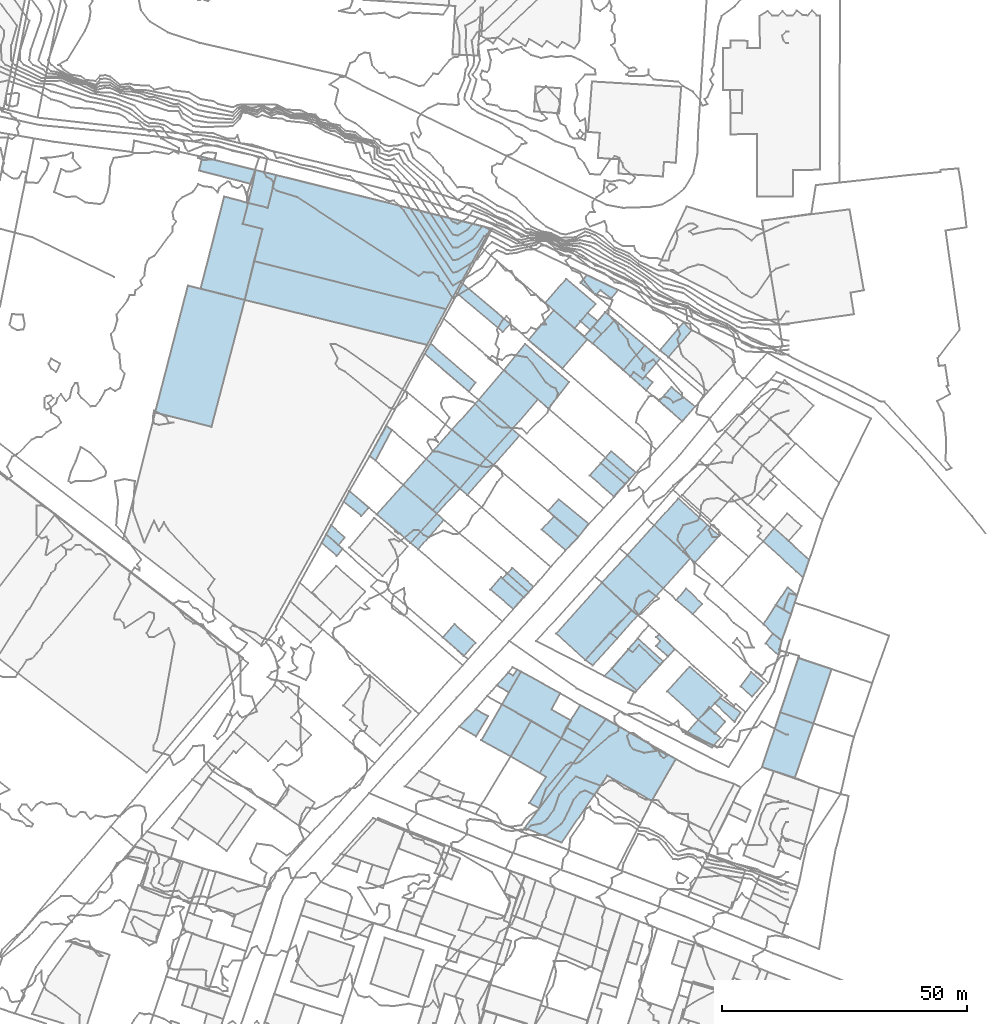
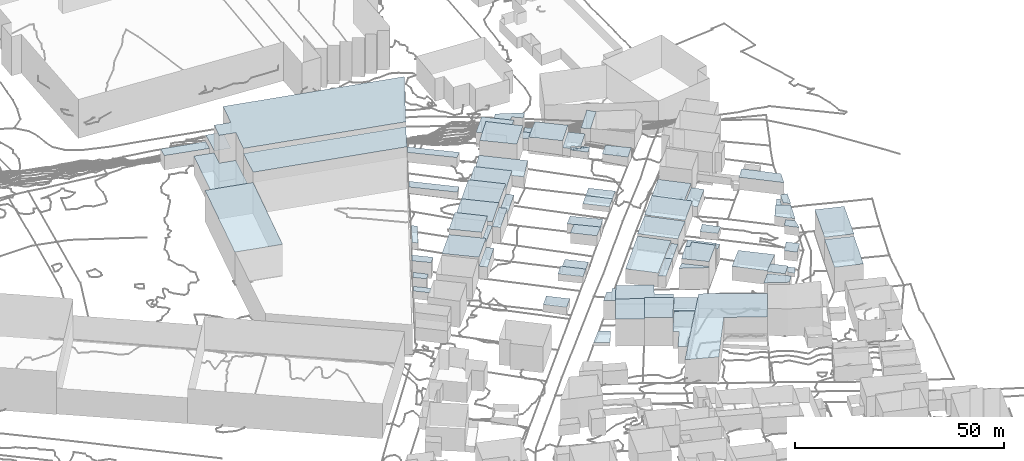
# Not in any storey, part 84 of 419: 73 roofs.
"""IFC2X3 model written with IfcOpenShell, lengths in metres."""

from ifc_helpers import new_model, si_unit, frame, origin_with_axes, place, context, subcontext, project, faceted_brep, element, save


model = new_model("IFC2X3")

# Units and contexts
model_context = context("Model", 3, precision=1e-05, world=origin_with_axes())
body_context = subcontext(model_context, "Body", "Model", "MODEL_VIEW")
ifc_project = project(units=[si_unit("AREAUNIT", "SQUARE_METRE"), si_unit("LENGTHUNIT", "METRE")], contexts=[model_context])

# Roofs
roof_1_placement = place(None, frame((971.4920204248, 255.6976909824, 80.3019999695), z_axis=(0.0, 0.0, 1.0), x_axis=(1.0, 0.0, 0.0)))
element("IfcRoof", 1, at=roof_1_placement, Name="Toiture 0", ShapeType="NOTDEFINED", context=body_context, shape_type="Brep", body=[
    faceted_brep([(0.0, 0.0, 2.6980000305), (1.9, -1.8999999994, 2.6980000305), (3.7, -3.3999999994, 2.6980000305), (5.6, 2.0, 2.6980000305), (2.5, 3.9000000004, 2.6980000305)], [[[0, 1, 2]], [[2, 3, 4]], [[4, 0, 2]]]),
])
roof_2_placement = place(None, frame((943.8920204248, 250.5976909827, 79.4043981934), z_axis=(0.0, 0.0, 1.0), x_axis=(1.0, 0.0, 0.0)))
element("IfcRoof", 2, at=roof_2_placement, Name="Toiture 0", ShapeType="NOTDEFINED", context=body_context, shape_type="Brep", body=[
    faceted_brep([(1.8999999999, 2.2000000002, 7.3956018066), (0.0, 0.0, 7.3956018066), (0.8999999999, -0.6000000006, 7.3956018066), (2.2, 0.7999999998, 7.3956018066), (6.5, -3.2000000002, 7.3956018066), (7.1, -2.5, 7.3956018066)], [[[0, 1, 2]], [[3, 4, 5]], [[0, 2, 3]], [[3, 5, 0]]]),
])
roof_3_placement = place(None, frame((950.2920204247, 311.5976909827, 77.1379985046), z_axis=(0.0, 0.0, 1.0), x_axis=(1.0, 0.0, 0.0)))
element("IfcRoof", 3, at=roof_3_placement, Name="Toiture 0", ShapeType="NOTDEFINED", context=body_context, shape_type="Brep", body=[
    faceted_brep([(6.5, 4.0999999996, 5.0620014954), (4.9, 5.7999999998, 5.0620014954), (0.0, 0.0, 5.0620014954), (1.8, -1.4000000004, 5.0620014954)], [[[0, 1, 2]], [[2, 3, 0]]]),
])
roof_4_placement = place(None, frame((909.3920204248, 234.7976909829, 79.4479989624), z_axis=(0.0, 0.0, 1.0), x_axis=(1.0, 0.0, 0.0)))
element("IfcRoof", 4, at=roof_4_placement, Name="Toiture 0", ShapeType="NOTDEFINED", context=body_context, shape_type="Brep", body=[
    faceted_brep([(5.8999999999, 2.0999999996, 1.0520010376), (3.2999999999, 3.5, 1.0520010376), (0.0, 0.0, 1.0520010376), (3.3999999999, -2.0, 1.0520010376)], [[[0, 1, 2]], [[2, 3, 0]]]),
])
roof_5_placement = place(None, frame((922.6920204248, 214.0976909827, 76.1770995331), z_axis=(0.0, 0.0, 1.0), x_axis=(1.0, 0.0, 0.0)))
element("IfcRoof", 5, at=roof_5_placement, Name="Toiture 0", ShapeType="NOTDEFINED", context=body_context, shape_type="Brep", body=[
    faceted_brep([(26.0, 5.5, 7.1229004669), (30.9, 14.0999999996, 7.1229004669), (16.6, 22.2000000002, 7.1229004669), (0.0, 0.0, 7.1229004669), (7.6, -3.0, 7.1229004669), (16.9, 10.7000000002, 7.1229004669)], [[[0, 1, 2]], [[2, 3, 4]], [[5, 0, 2]], [[2, 4, 5]]]),
])
roof_6_placement = place(None, frame((971.1920204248, 226.4976909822, 78.6313998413), z_axis=(0.0, 0.0, 1.0), x_axis=(1.0, 0.0, 0.0)))
element("IfcRoof", 6, at=roof_6_placement, Name="Toiture 0", ShapeType="NOTDEFINED", context=body_context, shape_type="Brep", body=[
    faceted_brep([(3.7000000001, 11.2000000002, 7.1686001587), (0.0, 0.0, 7.1686001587), (6.7000000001, -2.1999999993, 7.1686001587), (10.5, 8.9000000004, 7.1686001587)], [[[0, 1, 2]], [[2, 3, 0]]]),
])
roof_7_placement = place(None, frame((974.8920204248, 237.6976909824, 79.1500015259), z_axis=(0.0, 0.0, 1.0), x_axis=(1.0, 0.0, 0.0)))
element("IfcRoof", 7, at=roof_7_placement, Name="Toiture 0", ShapeType="NOTDEFINED", context=body_context, shape_type="Brep", body=[
    faceted_brep([(3.7, 11.1000000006, 7.3499984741), (0.0, 0.0, 7.3499984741), (6.7999999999, -2.2999999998, 7.3499984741), (10.5, 8.7999999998, 7.3499984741)], [[[0, 1, 2]], [[2, 3, 0]]]),
])
roof_8_placement = place(None, frame((973.9920204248, 259.5976909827, 80.5100021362), z_axis=(0.0, 0.0, 1.0), x_axis=(1.0, 0.0, 0.0)))
element("IfcRoof", 8, at=roof_8_placement, Name="Toiture 0", ShapeType="NOTDEFINED", context=body_context, shape_type="Brep", body=[
    faceted_brep([(2.4, 3.5999999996, 1.1899978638), (0.0, 0.0, 1.1899978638), (1.6, -0.9000000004, 1.1899978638), (2.7, 2.3999999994, 1.1899978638), (4.4, 2.0, 1.1899978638)], [[[0, 1, 2]], [[3, 4, 0]], [[0, 2, 3]]]),
])
roof_9_placement = place(None, frame((971.3920204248, 272.5976909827, 80.4740020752), z_axis=(0.0, 0.0, 1.0), x_axis=(1.0, 0.0, 0.0)))
element("IfcRoof", 9, at=roof_9_placement, Name="Toiture 0", ShapeType="NOTDEFINED", context=body_context, shape_type="Brep", body=[
    faceted_brep([(2.2999999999, 2.7000000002, 3.6259979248), (0.0, 0.0, 3.6259979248), (6.7999999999, -6.1000000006, 3.6259979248), (8.2, -7.4000000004, 3.6259979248), (9.3999999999, -3.7999999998, 3.6259979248), (5.2, 0.0999999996, 3.6259979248)], [[[0, 1, 2]], [[2, 3, 4]], [[4, 5, 0]], [[0, 2, 4]]]),
])
roof_10_placement = place(None, frame((975.5920204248, 258.6976909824, 80.5100021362), z_axis=(0.0, 0.0, 1.0), x_axis=(1.0, 0.0, 0.0)))
element("IfcRoof", 10, at=roof_10_placement, Name="Toiture 0", ShapeType="NOTDEFINED", context=body_context, shape_type="Brep", body=[
    faceted_brep([(1.1, 3.2999999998, 2.9899978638), (0.0, 0.0, 2.9899978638), (1.5, -1.0, 2.9899978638), (2.8, 2.9000000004, 2.9899978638)], [[[0, 1, 2]], [[2, 3, 0]]]),
])
roof_11_placement = place(None, frame((865.1920204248, 337.3976909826, 75.976000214), z_axis=(0.0, 0.0, 1.0), x_axis=(1.0, 0.0, 0.0)))
element("IfcRoof", 11, at=roof_11_placement, Name="Toiture 0", ShapeType="NOTDEFINED", context=body_context, shape_type="Brep", body=[
    faceted_brep([(5.1, 3.2999999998, 18.223999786), (1.1, 4.2999999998, 18.223999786), (0.0, 0.0, 18.223999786), (4.0, -1.0, 18.223999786), (2.3, -7.5999999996, 18.223999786), (41.5, -17.4000000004, 18.223999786), (50.6, -0.9000000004, 18.223999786), (6.8, 10.0, 18.223999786)], [[[0, 1, 2]], [[3, 4, 5]], [[5, 6, 7]], [[0, 2, 3]], [[5, 7, 0]], [[0, 3, 5]]]),
])
roof_12_placement = place(None, frame((923.4920204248, 313.6976909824, 79.7437991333), z_axis=(0.0, 0.0, 1.0), x_axis=(1.0, 0.0, 0.0)))
element("IfcRoof", 12, at=roof_12_placement, Name="Toiture 0", ShapeType="NOTDEFINED", context=body_context, shape_type="Brep", body=[
    faceted_brep([(12.0, 0.1000000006, 6.9562008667), (5.2, 6.1000000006, 6.9562008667), (0.0, 0.0, 6.9562008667), (6.9, -5.7999999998, 6.9562008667)], [[[0, 1, 2]], [[2, 3, 0]]]),
])
roof_13_placement = place(None, frame((944.2920204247, 306.2976909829, 79.112399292), z_axis=(0.0, 0.0, 1.0), x_axis=(1.0, 0.0, 0.0)))
element("IfcRoof", 13, at=roof_13_placement, Name="Toiture 0", ShapeType="NOTDEFINED", context=body_context, shape_type="Brep", body=[
    faceted_brep([(4.6000000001, -1.2000000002, 1.987600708), (3.0, 0.0, 1.987600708), (2.5, -0.5, 1.987600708), (0.7000000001, 0.8999999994, 1.987600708), (0.0, 0.0, 1.987600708), (3.2000000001, -2.9000000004, 1.987600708)], [[[0, 1, 2]], [[2, 3, 4]], [[4, 5, 0]], [[0, 2, 4]]]),
])
roof_14_placement = place(None, frame((915.6920204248, 262.7976909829, 79.3039978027), z_axis=(0.0, 0.0, 1.0), x_axis=(1.0, 0.0, 0.0)))
element("IfcRoof", 14, at=roof_14_placement, Name="Toiture 0", ShapeType="NOTDEFINED", context=body_context, shape_type="Brep", body=[
    faceted_brep([(4.7000000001, -4.0, 1.9960021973), (6.8, -1.6000000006, 1.9960021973), (2.2000000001, 2.5, 1.9960021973), (0.0, 0.0, 1.9960021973)], [[[0, 1, 2]], [[2, 3, 0]]]),
])
roof_15_placement = place(None, frame((935.9920204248, 286.0976909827, 79.0081993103), z_axis=(0.0, 0.0, 1.0), x_axis=(1.0, 0.0, 0.0)))
element("IfcRoof", 15, at=roof_15_placement, Name="Toiture 0", ShapeType="NOTDEFINED", context=body_context, shape_type="Brep", body=[
    faceted_brep([(4.9, -4.2999999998, 1.5918006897), (7.2, -1.7999999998, 1.5918006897), (2.2999999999, 2.5, 1.5918006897), (0.0, 0.0, 1.5918006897)], [[[0, 1, 2]], [[2, 3, 0]]]),
])
roof_16_placement = place(None, frame((938.9920204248, 245.0976909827, 79.3228012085), z_axis=(0.0, 0.0, 1.0), x_axis=(1.0, 0.0, 0.0)))
element("IfcRoof", 16, at=roof_16_placement, Name="Toiture 0", ShapeType="NOTDEFINED", context=body_context, shape_type="Brep", body=[
    faceted_brep([(1.5, 1.5, 6.1771987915), (0.0, 0.0, 6.1771987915), (6.2999999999, -3.2999999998, 6.1771987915), (6.6, -2.9000000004, 6.1771987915)], [[[0, 1, 2]], [[2, 3, 0]]]),
])
roof_17_placement = place(None, frame((934.0920204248, 317.5976909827, 79.4200027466), z_axis=(0.0, 0.0, 1.0), x_axis=(1.0, 0.0, 0.0)))
element("IfcRoof", 17, at=roof_17_placement, Name="Toiture 0", ShapeType="NOTDEFINED", context=body_context, shape_type="Brep", body=[
    faceted_brep([(3.5, 0.0, 3.3799972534), (1.5, 1.5999999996, 3.3799972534), (0.0, 0.0, 3.3799972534), (2.0, -1.7999999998, 3.3799972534)], [[[0, 1, 2]], [[2, 3, 0]]]),
])
roof_18_placement = place(None, frame((913.8920204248, 231.9976909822, 79.4660003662), z_axis=(0.0, 0.0, 1.0), x_axis=(1.0, 0.0, 0.0)))
element("IfcRoof", 18, at=roof_18_placement, Name="Toiture 0", ShapeType="NOTDEFINED", context=body_context, shape_type="Brep", body=[
    faceted_brep([(0.0, 0.0, 7.9339996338), (6.0, -3.2999999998, 7.9339996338), (10.2, 4.0, 7.9339996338), (4.2, 7.3000000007, 7.9339996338)], [[[0, 1, 2]], [[2, 3, 0]]]),
])
roof_19_placement = place(None, frame((949.1920204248, 275.8976909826, 79.6199989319), z_axis=(0.0, 0.0, 1.0), x_axis=(1.0, 0.0, 0.0)))
element("IfcRoof", 19, at=roof_19_placement, Name="Toiture 0", ShapeType="NOTDEFINED", context=body_context, shape_type="Brep", body=[
    faceted_brep([(4.9, 5.5, 4.5800010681), (0.0, 0.0, 4.5800010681), (5.9, -5.4000000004, 4.5800010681), (10.9, 0.0, 4.5800010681)], [[[0, 1, 2]], [[2, 3, 0]]]),
])
roof_20_placement = place(None, frame((907.8920204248, 295.3976909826, 79.9370018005), z_axis=(0.0, 0.0, 1.0), x_axis=(1.0, 0.0, 0.0)))
element("IfcRoof", 20, at=roof_20_placement, Name="Toiture 0", ShapeType="NOTDEFINED", context=body_context, shape_type="Brep", body=[
    faceted_brep([(12.2999999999, 0.0999999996, 6.2629981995), (5.3999999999, 6.0999999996, 6.2629981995), (0.0, 0.0, 6.2629981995), (6.8999999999, -5.9000000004, 6.2629981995)], [[[0, 1, 2]], [[2, 3, 0]]]),
])
roof_21_placement = place(None, frame((865.5920204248, 321.8976909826, 80.3578001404), z_axis=(0.0, 0.0, 1.0), x_axis=(1.0, 0.0, 0.0)))
element("IfcRoof", 21, at=roof_21_placement, Name="Toiture 0", ShapeType="NOTDEFINED", context=body_context, shape_type="Brep", body=[
    faceted_brep([(41.1, -1.9000000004, 12.3421998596), (1.9, 7.9000000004, 12.3421998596), (0.0, 0.0, 12.3421998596), (37.2, -9.2000000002, 12.3421998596)], [[[0, 1, 2]], [[2, 3, 0]]]),
])
roof_22_placement = place(None, frame((955.5920204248, 233.2976909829, 78.8300018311), z_axis=(0.0, 0.0, 1.0), x_axis=(1.0, 0.0, 0.0)))
element("IfcRoof", 22, at=roof_22_placement, Name="Toiture 0", ShapeType="NOTDEFINED", context=body_context, shape_type="Brep", body=[
    faceted_brep([(2.6, 2.8999999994, 3.7699981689), (0.0, 0.0, 3.7699981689), (5.4, -2.8000000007, 3.7699981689), (7.1, -0.8000000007, 3.7699981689)], [[[0, 1, 2]], [[2, 3, 0]]]),
])
roof_23_placement = place(None, frame((943.6920204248, 269.7976909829, 79.72599823), z_axis=(0.0, 0.0, 1.0), x_axis=(1.0, 0.0, 0.0)))
element("IfcRoof", 23, at=roof_23_placement, Name="Toiture 0", ShapeType="NOTDEFINED", context=body_context, shape_type="Brep", body=[
    faceted_brep([(5.5, 6.0999999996, 4.77400177), (0.0, 0.0, 4.77400177), (7.3, -6.8000000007, 4.77400177), (12.8, -0.7000000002, 4.77400177)], [[[0, 1, 2]], [[2, 3, 0]]]),
])
roof_24_placement = place(None, frame((892.4920204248, 278.0976909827, 79.9392015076), z_axis=(0.0, 0.0, 1.0), x_axis=(1.0, 0.0, 0.0)))
element("IfcRoof", 24, at=roof_24_placement, Name="Toiture 0", ShapeType="NOTDEFINED", context=body_context, shape_type="Brep", body=[
    faceted_brep([(12.2999999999, 0.2000000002, 6.1607984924), (5.4, 6.0, 6.1607984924), (0.0, 0.0, 6.1607984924), (6.9, -5.7999999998, 6.1607984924)], [[[0, 1, 2]], [[2, 3, 0]]]),
])
roof_25_placement = place(None, frame((926.8920204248, 321.2976909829, 79.1452018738), z_axis=(0.0, 0.0, 1.0), x_axis=(1.0, 0.0, 0.0)))
element("IfcRoof", 25, at=roof_25_placement, Name="Toiture 0", ShapeType="NOTDEFINED", context=body_context, shape_type="Brep", body=[
    faceted_brep([(4.2999999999, 4.8999999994, 4.1547981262), (0.0, 0.0, 4.1547981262), (6.0, -5.2000000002, 4.1547981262), (10.2999999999, -0.2000000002, 4.1547981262)], [[[0, 1, 2]], [[2, 3, 0]]]),
])
roof_26_placement = place(None, frame((936.6920204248, 316.3976909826, 78.9909980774), z_axis=(0.0, 0.0, 1.0), x_axis=(1.0, 0.0, 0.0)))
element("IfcRoof", 26, at=roof_26_placement, Name="Toiture 0", ShapeType="NOTDEFINED", context=body_context, shape_type="Brep", body=[
    faceted_brep([(4.4, 1.4000000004, 2.5090019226), (2.5, 3.0, 2.5090019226), (0.0, 0.0, 2.5090019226), (1.7000000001, -1.5, 2.5090019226)], [[[0, 1, 2]], [[2, 3, 0]]]),
])
roof_27_placement = place(None, frame((926.1920204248, 274.9976909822, 79.1666029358), z_axis=(0.0, 0.0, 1.0), x_axis=(1.0, 0.0, 0.0)))
element("IfcRoof", 27, at=roof_27_placement, Name="Toiture 0", ShapeType="NOTDEFINED", context=body_context, shape_type="Brep", body=[
    faceted_brep([(4.9, -4.1999999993, 3.0333970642), (7.5, -1.5, 3.0333970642), (2.5, 2.7000000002, 3.0333970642), (0.0, 0.0, 3.0333970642)], [[[0, 1, 2]], [[2, 3, 0]]]),
])
roof_28_placement = place(None, frame((961.4920204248, 239.5976909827, 79.2879989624), z_axis=(0.0, 0.0, 1.0), x_axis=(1.0, 0.0, 0.0)))
element("IfcRoof", 28, at=roof_28_placement, Name="Toiture 0", ShapeType="NOTDEFINED", context=body_context, shape_type="Brep", body=[
    faceted_brep([(5.2999999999, -1.9000000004, 1.2120010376), (1.1, 1.0999999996, 1.2120010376), (0.0, 0.0, 1.2120010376), (4.1, -3.9000000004, 1.2120010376)], [[[0, 1, 2]], [[2, 3, 0]]]),
])
roof_29_placement = place(None, frame((935.0920204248, 248.3976909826, 79.2480003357), z_axis=(0.0, 0.0, 1.0), x_axis=(1.0, 0.0, 0.0)))
element("IfcRoof", 29, at=roof_29_placement, Name="Toiture 0", ShapeType="NOTDEFINED", context=body_context, shape_type="Brep", body=[
    faceted_brep([(5.0, 5.5999999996, 3.4519996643), (0.0, 0.0, 3.4519996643), (1.5, -1.0999999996, 3.4519996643), (6.5, 4.4000000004, 3.4519996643)], [[[0, 1, 2]], [[2, 3, 0]]]),
])
roof_30_placement = place(None, frame((966.7920204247, 242.9976909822, 79.511000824), z_axis=(0.0, 0.0, 1.0), x_axis=(1.0, 0.0, 0.0)))
element("IfcRoof", 30, at=roof_30_placement, Name="Toiture 0", ShapeType="NOTDEFINED", context=body_context, shape_type="Brep", body=[
    faceted_brep([(0.0, 0.0, 2.688999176), (2.4, -2.0999999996, 2.688999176), (4.7000000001, 0.7000000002, 2.688999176), (2.2000000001, 2.9000000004, 2.688999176)], [[[0, 1, 2]], [[2, 3, 0]]]),
])
roof_31_placement = place(None, frame((951.7920204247, 241.9976909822, 79.3996029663), z_axis=(0.0, 0.0, 1.0), x_axis=(1.0, 0.0, 0.0)))
element("IfcRoof", 31, at=roof_31_placement, Name="Toiture 0", ShapeType="NOTDEFINED", context=body_context, shape_type="Brep", body=[
    faceted_brep([(11.3, -0.8999999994, 4.1003970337), (4.6000000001, 5.0, 4.1003970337), (0.0, 0.0, 4.1003970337), (6.4, -5.7999999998, 4.1003970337)], [[[0, 1, 2]], [[2, 3, 0]]]),
])
roof_32_placement = place(None, frame((938.2920204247, 288.5976909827, 78.9566001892), z_axis=(0.0, 0.0, 1.0), x_axis=(1.0, 0.0, 0.0)))
element("IfcRoof", 32, at=roof_32_placement, Name="Toiture 0", ShapeType="NOTDEFINED", context=body_context, shape_type="Brep", body=[
    faceted_brep([(4.9, -4.2999999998, 1.6433998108), (7.1000000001, -1.9000000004, 1.6433998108), (2.1000000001, 2.3999999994, 1.6433998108), (0.0, 0.0, 1.6433998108)], [[[0, 1, 2]], [[2, 3, 0]]]),
])
roof_33_placement = place(None, frame((930.1920204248, 232.3976909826, 79.1070014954), z_axis=(0.0, 0.0, 1.0), x_axis=(1.0, 0.0, 0.0)))
element("IfcRoof", 33, at=roof_33_placement, Name="Toiture 0", ShapeType="NOTDEFINED", context=body_context, shape_type="Brep", body=[
    faceted_brep([(4.5, -2.2999999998, 3.1929985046), (5.8, -0.5, 3.1929985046), (1.0, 2.2000000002, 3.1929985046), (0.0, 0.0, 3.1929985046)], [[[0, 1, 2]], [[2, 3, 0]]]),
])
roof_34_placement = place(None, frame((958.1920204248, 236.1976909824, 79.2257979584), z_axis=(0.0, 0.0, 1.0), x_axis=(1.0, 0.0, 0.0)))
element("IfcRoof", 34, at=roof_34_placement, Name="Toiture 0", ShapeType="NOTDEFINED", context=body_context, shape_type="Brep", body=[
    faceted_brep([(2.2000000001, 2.6000000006, 3.9742020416), (0.0, 0.0, 3.9742020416), (3.3, -2.8999999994, 3.9742020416), (5.5, -0.3999999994, 3.9742020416)], [[[0, 1, 2]], [[2, 3, 0]]]),
])
roof_35_placement = place(None, frame((949.5920204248, 251.1976909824, 79.6), z_axis=(0.0, 0.0, 1.0), x_axis=(1.0, 0.0, 0.0)))
element("IfcRoof", 35, at=roof_35_placement, Name="Toiture 0", ShapeType="NOTDEFINED", context=body_context, shape_type="Brep", body=[
    faceted_brep([(3.8, -0.5999999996, 4.6), (0.6, 2.4000000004, 4.6), (0.0, 1.9000000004, 4.6), (0.8, 1.1000000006, 4.6), (0.0, 0.0, 4.6), (2.4, -2.0999999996, 4.6)], [[[0, 1, 2]], [[3, 4, 5]], [[0, 2, 3]], [[3, 5, 0]]]),
])
roof_36_placement = place(None, frame((909.4920204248, 283.3976909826, 79.9668006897), z_axis=(0.0, 0.0, 1.0), x_axis=(1.0, 0.0, 0.0)))
element("IfcRoof", 36, at=roof_36_placement, Name="Toiture 0", ShapeType="NOTDEFINED", context=body_context, shape_type="Brep", body=[
    faceted_brep([(6.9, 4.7999999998, 4.8331993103), (5.2999999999, 6.0999999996, 4.8331993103), (0.0, 0.0, 4.8331993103), (1.5, -1.2999999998, 4.8331993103)], [[[0, 1, 2]], [[2, 3, 0]]]),
])
roof_37_placement = place(None, frame((953.6920204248, 260.5976909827, 79.7878010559), z_axis=(0.0, 0.0, 1.0), x_axis=(1.0, 0.0, 0.0)))
element("IfcRoof", 37, at=roof_37_placement, Name="Toiture 0", ShapeType="NOTDEFINED", context=body_context, shape_type="Brep", body=[
    faceted_brep([(2.0, 2.3999999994, 1.9121989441), (0.0, 0.0, 1.9121989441), (3.3, -2.7999999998, 1.9121989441), (5.3, -0.7999999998, 1.9121989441)], [[[0, 1, 2]], [[2, 3, 0]]]),
])
roof_38_placement = place(None, frame((899.3920204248, 272.2976909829, 79.9064004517), z_axis=(0.0, 0.0, 1.0), x_axis=(1.0, 0.0, 0.0)))
element("IfcRoof", 38, at=roof_38_placement, Name="Toiture 0", ShapeType="NOTDEFINED", context=body_context, shape_type="Brep", body=[
    faceted_brep([(6.7999999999, 4.6999999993, 3.5935995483), (5.3999999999, 6.0, 3.5935995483), (0.0, 0.0, 3.5935995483), (1.6, -1.3000000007, 3.5935995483)], [[[0, 1, 2]], [[2, 3, 0]]]),
])
roof_39_placement = place(None, frame((881.2920204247, 272.2976909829, 80.3136010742), z_axis=(0.0, 0.0, 1.0), x_axis=(1.0, 0.0, 0.0)))
element("IfcRoof", 39, at=roof_39_placement, Name="Toiture 0", ShapeType="NOTDEFINED", context=body_context, shape_type="Brep", body=[
    faceted_brep([(4.3, -1.2000000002, 2.2863989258), (0.9, 1.6999999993, 2.2863989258), (0.0, 0.0, 2.2863989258), (3.1000000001, -2.7000000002, 2.2863989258)], [[[0, 1, 2]], [[2, 3, 0]]]),
])
roof_40_placement = place(None, frame((891.0920204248, 289.9976909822, 80.6671013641), z_axis=(0.0, 0.0, 1.0), x_axis=(1.0, 0.0, 0.0)))
element("IfcRoof", 40, at=roof_40_placement, Name="Toiture 0", ShapeType="NOTDEFINED", context=body_context, shape_type="Brep", body=[
    faceted_brep([(4.5, 5.3000000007, 1.9328986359), (3.4, 6.2000000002, 1.9328986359), (0.0, 0.0, 1.9328986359), (1.2, -0.8999999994, 1.9328986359)], [[[0, 1, 2]], [[2, 3, 0]]]),
])
roof_41_placement = place(None, frame((885.7920204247, 280.6976909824, 80.0627999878), z_axis=(0.0, 0.0, 1.0), x_axis=(1.0, 0.0, 0.0)))
element("IfcRoof", 41, at=roof_41_placement, Name="Toiture 0", ShapeType="NOTDEFINED", context=body_context, shape_type="Brep", body=[
    faceted_brep([(5.1000000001, -1.2000000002, 4.6372000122), (1.1000000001, 2.2000000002, 4.6372000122), (0.0, 0.0, 4.6372000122), (3.6000000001, -2.8999999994, 4.6372000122)], [[[0, 1, 2]], [[2, 3, 0]]]),
])
roof_42_placement = place(None, frame((908.9920204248, 323.1976909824, 79.6230010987), z_axis=(0.0, 0.0, 1.0), x_axis=(1.0, 0.0, 0.0)))
element("IfcRoof", 42, at=roof_42_placement, Name="Toiture 0", ShapeType="NOTDEFINED", context=body_context, shape_type="Brep", body=[
    faceted_brep([(10.7999999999, -6.2000000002, 2.8769989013), (1.1, 2.0, 2.8769989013), (0.0, 0.0, 2.8769989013), (9.2, -7.7999999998, 2.8769989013)], [[[0, 1, 2]], [[2, 3, 0]]]),
])
roof_43_placement = place(None, frame((916.9920204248, 243.1976909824, 79.308001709), z_axis=(0.0, 0.0, 1.0), x_axis=(1.0, 0.0, 0.0)))
element("IfcRoof", 43, at=roof_43_placement, Name="Toiture 0", ShapeType="NOTDEFINED", context=body_context, shape_type="Brep", body=[
    faceted_brep([(0.0, 0.0, 5.691998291), (2.5, -1.3999999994, 5.691998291), (5.0, 2.7999999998, 5.691998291), (4.2, 3.2000000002, 5.691998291), (3.4, 2.0, 5.691998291), (2.4, 2.6000000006, 5.691998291)], [[[0, 1, 2]], [[2, 3, 4]], [[4, 5, 0]], [[0, 2, 4]]]),
])
roof_44_placement = place(None, frame((971.8920204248, 251.7976909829, 79.9519989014), z_axis=(0.0, 0.0, 1.0), x_axis=(1.0, 0.0, 0.0)))
element("IfcRoof", 44, at=roof_44_placement, Name="Toiture 0", ShapeType="NOTDEFINED", context=body_context, shape_type="Brep", body=[
    faceted_brep([(0.0, 0.0, 2.4480010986), (2.7, -2.5, 2.4480010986), (3.2999999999, 0.5, 2.4480010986), (1.5, 2.0, 2.4480010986)], [[[0, 1, 2]], [[2, 3, 0]]]),
])
roof_45_placement = place(None, frame((940.0920204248, 253.9976909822, 79.3659988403), z_axis=(0.0, 0.0, 1.0), x_axis=(1.0, 0.0, 0.0)))
element("IfcRoof", 45, at=roof_45_placement, Name="Toiture 0", ShapeType="NOTDEFINED", context=body_context, shape_type="Brep", body=[
    faceted_brep([(5.7, 3.5, 3.3340011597), (4.4, 4.5, 3.3340011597), (0.0, 0.0, 3.3340011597), (1.5, -1.1999999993, 3.3340011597)], [[[0, 1, 2]], [[2, 3, 0]]]),
])
roof_46_placement = place(None, frame((914.7920204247, 289.4976909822, 79.9668006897), z_axis=(0.0, 0.0, 1.0), x_axis=(1.0, 0.0, 0.0)))
element("IfcRoof", 46, at=roof_46_placement, Name="Toiture 0", ShapeType="NOTDEFINED", context=body_context, shape_type="Brep", body=[
    faceted_brep([(5.4, 6.0, 3.2331993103), (0.0, 0.0, 3.2331993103), (1.6000000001, -1.2999999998, 3.2331993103), (6.9, 4.7000000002, 3.2331993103)], [[[0, 1, 2]], [[2, 3, 0]]]),
])
roof_47_placement = place(None, frame((903.9920204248, 278.9976909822, 80.158001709), z_axis=(0.0, 0.0, 1.0), x_axis=(1.0, 0.0, 0.0)))
element("IfcRoof", 47, at=roof_47_placement, Name="Toiture 0", ShapeType="NOTDEFINED", context=body_context, shape_type="Brep", body=[
    faceted_brep([(0.7999999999, -0.6999999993, 4.841998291), (5.5, 4.4000000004, 4.841998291), (4.6, 5.2000000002, 4.841998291), (0.0, 0.0, 4.841998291)], [[[0, 1, 2]], [[2, 3, 0]]]),
])
roof_48_placement = place(None, frame((856.5920204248, 324.1976909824, 80.7059997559), z_axis=(0.0, 0.0, 1.0), x_axis=(1.0, 0.0, 0.0)))
element("IfcRoof", 48, at=roof_48_placement, Name="Toiture 0", ShapeType="NOTDEFINED", context=body_context, shape_type="Brep", body=[
    faceted_brep([(0.0, 0.0, 5.3940002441), (9.0, -2.2999999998, 5.3940002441), (12.6, 12.2000000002, 5.3940002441), (8.6, 13.2000000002, 5.3940002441), (9.7, 17.5, 5.3940002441), (4.8, 18.7999999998, 5.3940002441)], [[[0, 1, 2]], [[3, 4, 5]], [[0, 2, 3]], [[3, 5, 0]]]),
])
roof_49_placement = place(None, frame((919.8920204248, 228.6976909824, 79.4340026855), z_axis=(0.0, 0.0, 1.0), x_axis=(1.0, 0.0, 0.0)))
element("IfcRoof", 49, at=roof_49_placement, Name="Toiture 0", ShapeType="NOTDEFINED", context=body_context, shape_type="Brep", body=[
    faceted_brep([(4.2, 7.2999999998, 8.2659973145), (0.0, 0.0, 8.2659973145), (5.8999999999, -3.3999999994, 8.2659973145), (10.2999999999, 3.7000000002, 8.2659973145)], [[[0, 1, 2]], [[2, 3, 0]]]),
])
roof_50_placement = place(None, frame((866.2920204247, 341.6976909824, 79.8180023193), z_axis=(0.0, 0.0, 1.0), x_axis=(1.0, 0.0, 0.0)))
element("IfcRoof", 50, at=roof_50_placement, Name="Toiture 0", ShapeType="NOTDEFINED", context=body_context, shape_type="Brep", body=[
    faceted_brep([(0.9, 3.7999999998, 6.8819976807), (0.0, 0.0, 6.8819976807), (4.0, -1.0, 6.8819976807), (5.7000000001, 5.7000000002, 6.8819976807), (1.5, 6.7000000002, 6.8819976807)], [[[0, 1, 2]], [[2, 3, 4]], [[4, 0, 2]]]),
])
roof_51_placement = place(None, frame((856.2920204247, 348.2976909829, 80.6039993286), z_axis=(0.0, 0.0, 1.0), x_axis=(1.0, 0.0, 0.0)))
element("IfcRoof", 51, at=roof_51_placement, Name="Toiture 0", ShapeType="NOTDEFINED", context=body_context, shape_type="Brep", body=[
    faceted_brep([(11.5, 0.0999999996, 4.1960006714), (0.6000000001, 2.7999999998, 4.1960006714), (0.0, 0.0, 4.1960006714), (10.9, -2.8000000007, 4.1960006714)], [[[0, 1, 2]], [[2, 3, 0]]]),
])
roof_52_placement = place(None, frame((942.8920204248, 307.5976909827, 78.6759994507), z_axis=(0.0, 0.0, 1.0), x_axis=(1.0, 0.0, 0.0)))
element("IfcRoof", 52, at=roof_52_placement, Name="Toiture 0", ShapeType="NOTDEFINED", context=body_context, shape_type="Brep", body=[
    faceted_brep([(7.5, 2.2999999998, 2.8240005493), (4.2999999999, 5.0, 2.8240005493), (0.0, 0.0, 2.8240005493), (1.3999999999, -1.2999999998, 2.8240005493), (2.1, -0.4000000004, 2.8240005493), (3.8999999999, -1.7999999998, 2.8240005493)], [[[0, 1, 2]], [[2, 3, 4]], [[4, 5, 0]], [[0, 2, 4]]]),
])
roof_53_placement = place(None, frame((940.4920204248, 246.5976909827, 79.3300018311), z_axis=(0.0, 0.0, 1.0), x_axis=(1.0, 0.0, 0.0)))
element("IfcRoof", 53, at=roof_53_placement, Name="Toiture 0", ShapeType="NOTDEFINED", context=body_context, shape_type="Brep", body=[
    faceted_brep([(3.4, 4.0, 7.5699981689), (0.0, 0.0, 7.5699981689), (5.1, -4.4000000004, 7.5699981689), (9.9, 0.7999999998, 7.5699981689), (5.6, 4.7999999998, 7.5699981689), (4.2999999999, 3.3999999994, 7.5699981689)], [[[0, 1, 2]], [[2, 3, 4]], [[5, 0, 2]], [[2, 4, 5]]]),
])
roof_54_placement = place(None, frame((934.1920204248, 325.3976909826, 78.4769989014), z_axis=(0.0, 0.0, 1.0), x_axis=(1.0, 0.0, 0.0)))
element("IfcRoof", 54, at=roof_54_placement, Name="Toiture 0", ShapeType="NOTDEFINED", context=body_context, shape_type="Brep", body=[
    faceted_brep([(7.6, -1.5, 3.7230010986), (1.2000000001, 1.5999999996, 3.7230010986), (0.0, 0.0, 3.7230010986), (3.0, -2.5, 3.7230010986), (4.0, -1.5, 3.7230010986), (6.2000000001, -3.2000000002, 3.7230010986)], [[[0, 1, 2]], [[2, 3, 4]], [[4, 5, 0]], [[0, 2, 4]]]),
])
roof_55_placement = place(None, frame((882.1920204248, 273.9976909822, 80.2499984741), z_axis=(0.0, 0.0, 1.0), x_axis=(1.0, 0.0, 0.0)))
element("IfcRoof", 55, at=roof_55_placement, Name="Toiture 0", ShapeType="NOTDEFINED", context=body_context, shape_type="Brep", body=[
    faceted_brep([(3.8, -0.5999999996, 4.9500015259), (1.0, 1.9000000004, 4.9500015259), (0.0, 0.0, 4.9500015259), (2.5, -2.0999999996, 4.9500015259)], [[[0, 1, 2]], [[2, 3, 0]]]),
])
roof_56_placement = place(None, frame((955.0920204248, 270.4976909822, 79.9700004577), z_axis=(0.0, 0.0, 1.0), x_axis=(1.0, 0.0, 0.0)))
element("IfcRoof", 56, at=roof_56_placement, Name="Toiture 0", ShapeType="NOTDEFINED", context=body_context, shape_type="Brep", body=[
    faceted_brep([(0.0, 0.0, 3.0299995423), (1.4, -1.3999999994, 3.0299995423), (2.4, -2.1999999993, 3.0299995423), (7.3, 3.2000000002, 3.0299995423), (5.0, 5.4000000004, 3.0299995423)], [[[0, 1, 2]], [[2, 3, 4]], [[4, 0, 2]]]),
])
roof_57_placement = place(None, frame((931.1920204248, 234.5976909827, 79.0538980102), z_axis=(0.0, 0.0, 1.0), x_axis=(1.0, 0.0, 0.0)))
element("IfcRoof", 57, at=roof_57_placement, Name="Toiture 0", ShapeType="NOTDEFINED", context=body_context, shape_type="Brep", body=[
    faceted_brep([(4.8, -2.7000000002, 3.1461019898), (8.1, 1.7000000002, 3.1461019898), (2.9, 4.5999999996, 3.1461019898), (0.0, 0.0, 3.1461019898)], [[[0, 1, 2]], [[2, 3, 0]]]),
])
roof_58_placement = place(None, frame((918.0920204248, 239.2976909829, 79.3015979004), z_axis=(0.0, 0.0, 1.0), x_axis=(1.0, 0.0, 0.0)))
element("IfcRoof", 58, at=roof_58_placement, Name="Toiture 0", ShapeType="NOTDEFINED", context=body_context, shape_type="Brep", body=[
    faceted_brep([(0.0, 0.0, 6.5984020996), (12.1, -6.9000000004, 6.5984020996), (14.1, -3.3000000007, 6.5984020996), (10.1, -1.0, 6.5984020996), (11.9, 2.2999999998, 6.5984020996), (3.9, 6.6999999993, 6.5984020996)], [[[0, 1, 2]], [[3, 4, 5]], [[0, 2, 3]], [[3, 5, 0]]]),
])
roof_59_placement = place(None, frame((923.6920204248, 219.1976909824, 78.7404975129), z_axis=(0.0, 0.0, 1.0), x_axis=(1.0, 0.0, 0.0)))
element("IfcRoof", 59, at=roof_59_placement, Name="Toiture 0", ShapeType="NOTDEFINED", context=body_context, shape_type="Brep", body=[
    faceted_brep([(0.0, 0.0, 4.9595024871), (2.0, -1.0999999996, 4.9595024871), (11.0, 10.9000000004, 4.9595024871), (6.5, 13.2000000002, 4.9595024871), (2.1, 6.1000000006, 4.9595024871), (3.4, 5.2999999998, 4.9595024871)], [[[0, 1, 2]], [[2, 3, 4]], [[5, 0, 2]], [[2, 4, 5]]]),
])
roof_60_placement = place(None, frame((938.4920204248, 264.1976909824, 79.72599823), z_axis=(0.0, 0.0, 1.0), x_axis=(1.0, 0.0, 0.0)))
element("IfcRoof", 60, at=roof_60_placement, Name="Toiture 0", ShapeType="NOTDEFINED", context=body_context, shape_type="Brep", body=[
    faceted_brep([(5.2, 5.6000000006, 4.47400177), (0.0, 0.0, 4.47400177), (7.2999999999, -6.7000000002, 4.47400177), (12.5, -1.2000000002, 4.47400177)], [[[0, 1, 2]], [[2, 3, 0]]]),
])
roof_61_placement = place(None, frame((929.1920204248, 253.7976909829, 79.3199996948), z_axis=(0.0, 0.0, 1.0), x_axis=(1.0, 0.0, 0.0)))
element("IfcRoof", 61, at=roof_61_placement, Name="Toiture 0", ShapeType="NOTDEFINED", context=body_context, shape_type="Brep", body=[
    faceted_brep([(15.3, 4.6999999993, 4.1800003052), (9.3, 10.3999999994, 4.1800003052), (0.0, 0.0, 4.1800003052), (5.9, -5.4000000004, 4.1800003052)], [[[0, 1, 2]], [[2, 3, 0]]]),
])
roof_62_placement = place(None, frame((902.5920204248, 289.3976909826, 79.9370018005), z_axis=(0.0, 0.0, 1.0), x_axis=(1.0, 0.0, 0.0)))
element("IfcRoof", 62, at=roof_62_placement, Name="Toiture 0", ShapeType="NOTDEFINED", context=body_context, shape_type="Brep", body=[
    faceted_brep([(12.2, 0.0999999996, 6.2629981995), (5.3, 6.0, 6.2629981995), (0.0, 0.0, 6.2629981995), (6.9, -6.0, 6.2629981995)], [[[0, 1, 2]], [[2, 3, 0]]]),
])
roof_63_placement = place(None, frame((913.2920204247, 301.4976909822, 79.9740013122), z_axis=(0.0, 0.0, 1.0), x_axis=(1.0, 0.0, 0.0)))
element("IfcRoof", 63, at=roof_63_placement, Name="Toiture 0", ShapeType="NOTDEFINED", context=body_context, shape_type="Brep", body=[
    faceted_brep([(5.2000000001, 6.1000000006, 4.5259986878), (0.0, 0.0, 4.5259986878), (6.9, -6.0, 4.5259986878), (12.1000000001, 0.1000000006, 4.5259986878)], [[[0, 1, 2]], [[2, 3, 0]]]),
])
roof_64_placement = place(None, frame((897.8920204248, 284.0976909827, 80.158001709), z_axis=(0.0, 0.0, 1.0), x_axis=(1.0, 0.0, 0.0)))
element("IfcRoof", 64, at=roof_64_placement, Name="Toiture 0", ShapeType="NOTDEFINED", context=body_context, shape_type="Brep", body=[
    faceted_brep([(10.7, 0.0999999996, 7.541998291), (4.7, 5.2999999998, 7.541998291), (0.0, 0.0, 7.541998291), (6.1, -5.1000000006, 7.541998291)], [[[0, 1, 2]], [[2, 3, 0]]]),
])
roof_65_placement = place(None, frame((918.4920204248, 307.5976909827, 79.7623983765), z_axis=(0.0, 0.0, 1.0), x_axis=(1.0, 0.0, 0.0)))
element("IfcRoof", 65, at=roof_65_placement, Name="Toiture 0", ShapeType="NOTDEFINED", context=body_context, shape_type="Brep", body=[
    faceted_brep([(0.0, 0.0, 3.3376016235), (9.1, -7.9000000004, 3.3376016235), (13.2999999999, -2.5, 3.3376016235), (4.2999999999, 5.2999999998, 3.3376016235)], [[[0, 1, 2]], [[2, 3, 0]]]),
])
roof_66_placement = place(None, frame((902.2920204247, 310.8976909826, 80.1476022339), z_axis=(0.0, 0.0, 1.0), x_axis=(1.0, 0.0, 0.0)))
element("IfcRoof", 66, at=roof_66_placement, Name="Toiture 0", ShapeType="NOTDEFINED", context=body_context, shape_type="Brep", body=[
    faceted_brep([(10.4, -5.9000000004, 2.0523977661), (1.2000000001, 2.0999999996, 2.0523977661), (0.0, 0.0, 2.0523977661), (9.0, -7.7000000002, 2.0523977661)], [[[0, 1, 2]], [[2, 3, 0]]]),
])
roof_67_placement = place(None, frame((847.2920204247, 298.8976909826, 80.5991983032), z_axis=(0.0, 0.0, 1.0), x_axis=(1.0, 0.0, 0.0)))
element("IfcRoof", 67, at=roof_67_placement, Name="Toiture 0", ShapeType="NOTDEFINED", context=body_context, shape_type="Brep", body=[
    faceted_brep([(6.7000000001, 25.9000000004, 9.1008016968), (0.0, 0.0, 9.1008016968), (11.5, -2.9000000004, 9.1008016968), (18.3, 23.0, 9.1008016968)], [[[0, 1, 2]], [[2, 3, 0]]]),
])
roof_68_placement = place(None, frame((934.8920204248, 314.3976909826, 79.4939979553), z_axis=(0.0, 0.0, 1.0), x_axis=(1.0, 0.0, 0.0)))
element("IfcRoof", 68, at=roof_68_placement, Name="Toiture 0", ShapeType="NOTDEFINED", context=body_context, shape_type="Brep", body=[
    faceted_brep([(3.5, 0.5, 3.5060020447), (1.7999999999, 2.0, 3.5060020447), (0.0, 0.0, 3.5060020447), (1.7, -1.4000000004, 3.5060020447)], [[[0, 1, 2]], [[2, 3, 0]]]),
])
roof_69_placement = place(None, frame((936.5920204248, 312.9976909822, 78.6872006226), z_axis=(0.0, 0.0, 1.0), x_axis=(1.0, 0.0, 0.0)))
element("IfcRoof", 69, at=roof_69_placement, Name="Toiture 0", ShapeType="NOTDEFINED", context=body_context, shape_type="Brep", body=[
    faceted_brep([(10.6, -0.3999999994, 4.8127993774), (4.5, 4.8000000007, 4.8127993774), (0.0, 0.0, 4.8127993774), (6.3, -5.3999999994, 4.8127993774)], [[[0, 1, 2]], [[2, 3, 0]]]),
])
roof_70_placement = place(None, frame((927.4920204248, 278.7976909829, 79.1666029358), z_axis=(0.0, 0.0, 1.0), x_axis=(1.0, 0.0, 0.0)))
element("IfcRoof", 70, at=roof_70_placement, Name="Toiture 0", ShapeType="NOTDEFINED", context=body_context, shape_type="Brep", body=[
    faceted_brep([(6.2, -5.3000000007, 2.9333970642), (8.2999999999, -2.6000000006, 2.9333970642), (2.2, 2.3999999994, 2.9333970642), (0.0, 0.0, 2.9333970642)], [[[0, 1, 2]], [[2, 3, 0]]]),
])
roof_71_placement = place(None, frame((918.1920204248, 264.9976909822, 79.2470031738), z_axis=(0.0, 0.0, 1.0), x_axis=(1.0, 0.0, 0.0)))
element("IfcRoof", 71, at=roof_71_placement, Name="Toiture 0", ShapeType="NOTDEFINED", context=body_context, shape_type="Brep", body=[
    faceted_brep([(4.3, -3.7999999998, 2.0529968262), (6.3, -1.5999999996, 2.0529968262), (2.0, 2.2000000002, 2.0529968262), (0.0, 0.0, 2.0529968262)], [[[0, 1, 2]], [[2, 3, 0]]]),
])
roof_72_placement = place(None, frame((905.9920204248, 252.9976909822, 79.4715997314), z_axis=(0.0, 0.0, 1.0), x_axis=(1.0, 0.0, 0.0)))
element("IfcRoof", 72, at=roof_72_placement, Name="Toiture 0", ShapeType="NOTDEFINED", context=body_context, shape_type="Brep", body=[
    faceted_brep([(0.0, 0.0, 2.2284002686), (4.2999999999, -3.7999999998, 2.2284002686), (6.7, -1.0999999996, 2.2284002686), (2.4, 2.7000000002, 2.2284002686)], [[[0, 1, 2]], [[2, 3, 0]]]),
])
roof_73_placement = place(None, frame((950.1920204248, 301.2976909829, 77.9925981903), z_axis=(0.0, 0.0, 1.0), x_axis=(1.0, 0.0, 0.0)))
element("IfcRoof", 73, at=roof_73_placement, Name="Toiture 0", ShapeType="NOTDEFINED", context=body_context, shape_type="Brep", body=[
    faceted_brep([(4.7000000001, -4.2000000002, 2.9074018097), (7.3, -1.2000000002, 2.9074018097), (2.5, 2.7999999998, 2.9074018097), (0.0, 0.0, 2.9074018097)], [[[0, 1, 2]], [[2, 3, 0]]]),
])

save(model, "model.ifc")
